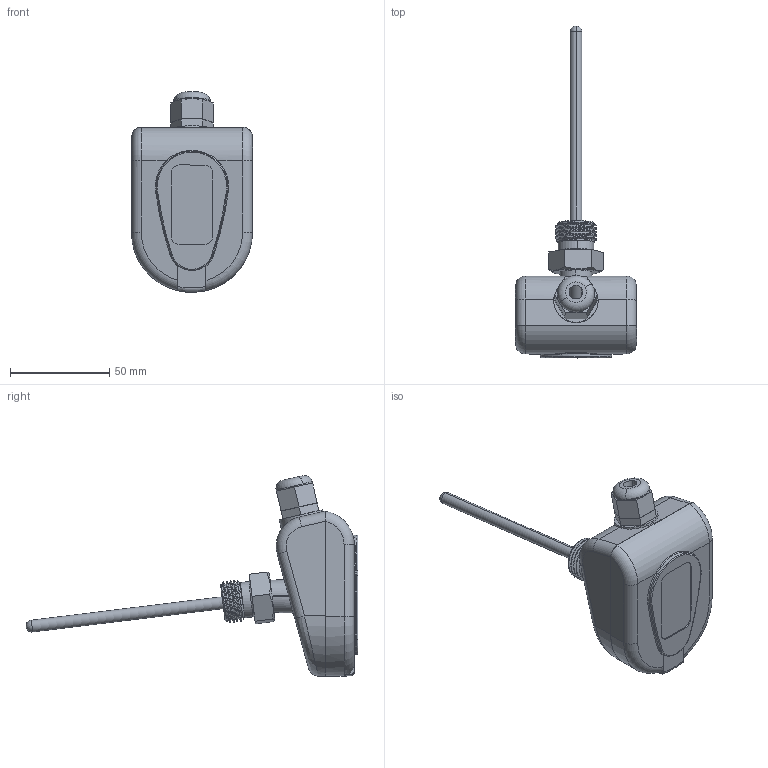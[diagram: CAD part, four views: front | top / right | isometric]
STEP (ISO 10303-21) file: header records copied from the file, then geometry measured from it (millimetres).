
FILE_DESCRIPTION (( 'STEP AP203' ), '1' );
FILE_NAME ('Ñáîðêà ESTF-100.STEP', '2019-10-08T11:30:32', ( '' ), ( '' ), 'SwSTEP 2.0', 'SolidWorks 2016', '' );
FILE_SCHEMA (( 'CONFIG_CONTROL_DESIGN' ));
Length unit declared in the file: millimetre
Products named in the file (12): 櫻蠉錪7^栖闉罻; 櫻蠉錪8^栖闉罻; ïëàòà, êðóãëàÿ; Êîðïóñ_„«ï âàã¡®ª; ESTF-PT1000-100-PVC-2; Êðûøêà; Ãåðìîââîä; 秮鶋罻; 栖闉罻 ESTF-100; Êëåìíèê; 砎鍒鍱 1; 砎鍒鍱 2
Assembly tree (11 placements, depth 2):
  栖闉罻 ESTF-100
    Êîðïóñ_„«ï âàã¡®ª
    Êðûøêà
    秮鶋罻
    Êëåìíèê
    砎鍒鍱 1
    砎鍒鍱 2
    櫻蠉錪7^栖闉罻
    櫻蠉錪8^栖闉罻
    ïëàòà, êðóãëàÿ
    ESTF-PT1000-100-PVC-2
    Ãåðìîââîä
Bounding box: 61.05 x 167.41 x 101.33 mm (x, y, z)
Volume: 67511.4 mm3; surface area: 61896.8 mm2
Topology: 11 solids, 11 shells, 497 faces, 1242 edges, 806 vertices
Faces by surface type: plane 249, cylinder 172, torus 32, bspline 26, cone 16, sphere 2
Entity records: 23095 total; most frequent: CARTESIAN_POINT 10118, ORIENTED_EDGE 2476, DIRECTION 2384, EDGE_CURVE 1238, AXIS2_PLACEMENT_3D 866, VERTEX_POINT 804, LINE 652, VECTOR 652
